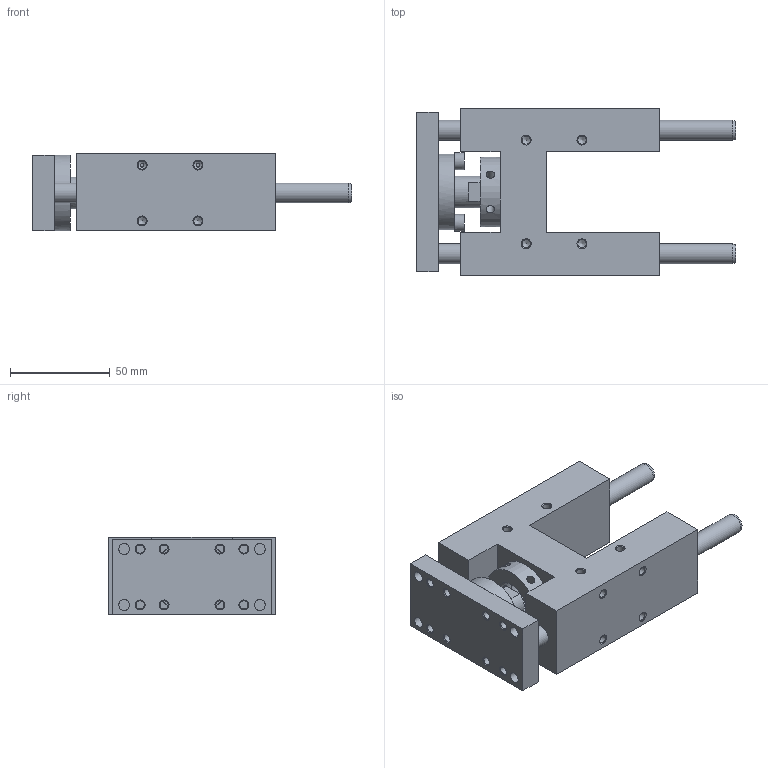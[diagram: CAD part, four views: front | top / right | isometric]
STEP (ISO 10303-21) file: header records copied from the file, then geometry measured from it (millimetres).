
FILE_DESCRIPTION( ( 'STEP AP214' ), '1' );
FILE_NAME( 'U:/Etudes/Top Solid/BIBLIO 3D AVM/TOP/PNEUMATIQUE/GUIDAGES/Type 32 (en H)/_Classique/3220_10.step', '2005-05-27T09:59:37', ( ' ' ), ( ' ' ), 'XStep 1.0', ' ', ' ' );
FILE_SCHEMA( ( 'automotive_design' ) );
Length unit declared in the file: metre
Products named in the file (2): 1; 2
Bounding box: 160 x 84 x 39 mm (x, y, z)
Volume: 250806.1 mm3; surface area: 66093 mm2
Topology: 2 solids, 5 shells, 180 faces, 471 edges, 305 vertices
Faces by surface type: cylinder 69, plane 61, cone 50
Full cylindrical faces by diameter (mm): 4.134 x36, 4.2 x6, 5 x4, 5.5 x6, 6.647 x2, 8.5 x2, 10 x4, 16 x1, 18 x1, 20.376 x2, 22.8 x1, 25 x2, 35 x1, 38 x1
Entity records: 6661 total; most frequent: CARTESIAN_POINT 1518, DIRECTION 784, ORIENTED_EDGE 550, EDGE_LOOP 360, AXIS2_PLACEMENT_3D 345, EDGE_CURVE 275, FACE_OUTER_BOUND 249, VERTEX_POINT 239
